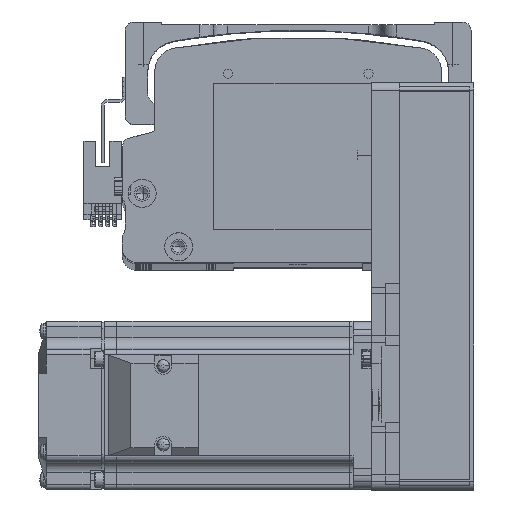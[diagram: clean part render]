
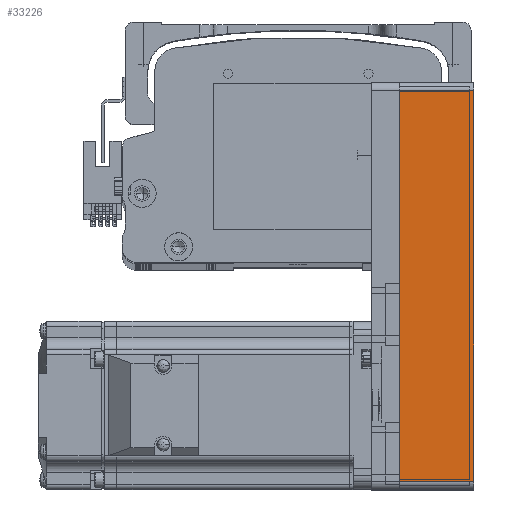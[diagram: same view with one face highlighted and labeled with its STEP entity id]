
A CAD part, top view. The second image highlights one B-rep face of the part: STEP entity #33226.
In plain terms, the highlighted planar face has unit normal (0, 0, 1) as drawn and (0, -1, 0) by its records, which use the part's own axes.
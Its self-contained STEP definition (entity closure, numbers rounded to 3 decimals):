
#258 = AXIS2_PLACEMENT_3D ( 'NONE', #47797, #7864, #54471 ) ;
#3288 = ORIENTED_EDGE ( 'NONE', *, *, #11275, .T. ) ;
#4996 = EDGE_LOOP ( 'NONE', ( #3288, #67039, #75489, #73976 ) ) ;
#5762 = DIRECTION ( 'NONE',  ( 1., 0., 0. ) ) ;
#7864 = DIRECTION ( 'NONE',  ( 0., 1., 0. ) ) ;
#9796 = CARTESIAN_POINT ( 'NONE',  ( 72.5, -30., 0. ) ) ;
#11275 = EDGE_CURVE ( 'NONE', #80254, #30633, #27327, .T. ) ;
#11322 = DIRECTION ( 'NONE',  ( 0., 0., 1. ) ) ;
#17359 = EDGE_CURVE ( 'NONE', #80547, #80254, #25329, .T. ) ;
#20994 = PLANE ( 'NONE',  #258 ) ;
#21894 = CARTESIAN_POINT ( 'NONE',  ( -69.5, -30., 26.5 ) ) ;
#24939 = VECTOR ( 'NONE', #11322, 1000. ) ;
#25329 = LINE ( 'NONE', #64656, #76539 ) ;
#27327 = LINE ( 'NONE', #9796, #58616 ) ;
#30633 = VERTEX_POINT ( 'NONE', #54280 ) ;
#33226 = ADVANCED_FACE ( 'NONE', ( #35703 ), #20994, .F. ) ;
#35538 = EDGE_CURVE ( 'NONE', #30633, #41414, #42679, .T. ) ;
#35703 = FACE_OUTER_BOUND ( 'NONE', #4996, .T. ) ;
#41414 = VERTEX_POINT ( 'NONE', #57699 ) ;
#42679 = LINE ( 'NONE', #57917, #24939 ) ;
#47797 = CARTESIAN_POINT ( 'NONE',  ( 72.5, -30., 26.5 ) ) ;
#54280 = CARTESIAN_POINT ( 'NONE',  ( 69.5, -30., 0. ) ) ;
#54471 = DIRECTION ( 'NONE',  ( -1., 0., 0. ) ) ;
#57699 = CARTESIAN_POINT ( 'NONE',  ( 69.5, -30., 26.5 ) ) ;
#57877 = DIRECTION ( 'NONE',  ( 0., 0., -1. ) ) ;
#57917 = CARTESIAN_POINT ( 'NONE',  ( 69.5, -30., 26.5 ) ) ;
#58088 = CARTESIAN_POINT ( 'NONE',  ( -69.5, -30., 0. ) ) ;
#58616 = VECTOR ( 'NONE', #76893, 1000. ) ;
#64656 = CARTESIAN_POINT ( 'NONE',  ( -69.5, -30., 26.5 ) ) ;
#67039 = ORIENTED_EDGE ( 'NONE', *, *, #35538, .T. ) ;
#67100 = EDGE_CURVE ( 'NONE', #80547, #41414, #67145, .T. ) ;
#67145 = LINE ( 'NONE', #86115, #69245 ) ;
#69245 = VECTOR ( 'NONE', #5762, 1000. ) ;
#73976 = ORIENTED_EDGE ( 'NONE', *, *, #17359, .T. ) ;
#75489 = ORIENTED_EDGE ( 'NONE', *, *, #67100, .F. ) ;
#76539 = VECTOR ( 'NONE', #57877, 1000. ) ;
#76893 = DIRECTION ( 'NONE',  ( 1., 0., 0. ) ) ;
#80254 = VERTEX_POINT ( 'NONE', #58088 ) ;
#80547 = VERTEX_POINT ( 'NONE', #21894 ) ;
#86115 = CARTESIAN_POINT ( 'NONE',  ( 72.5, -30., 26.5 ) ) ;
